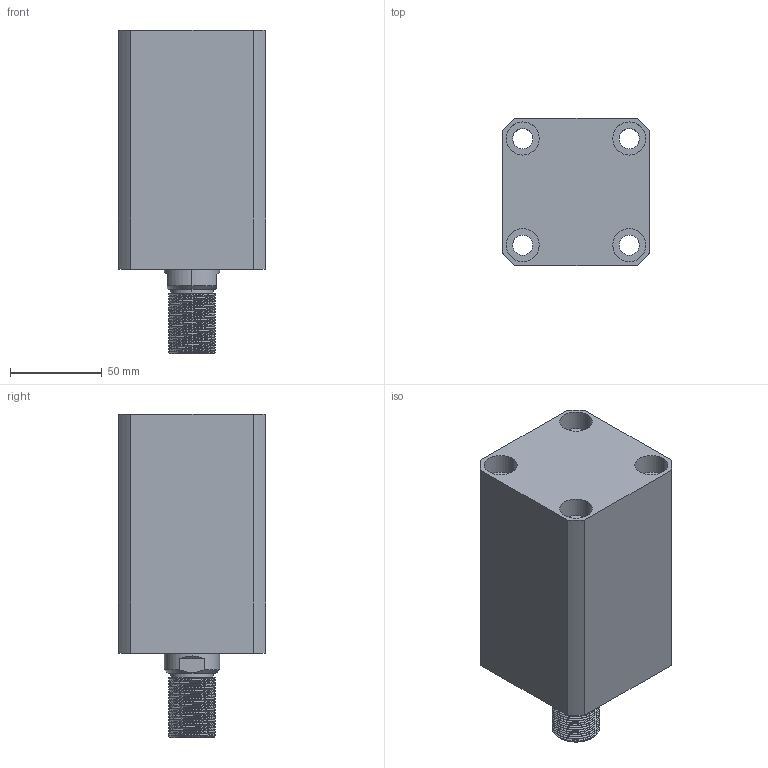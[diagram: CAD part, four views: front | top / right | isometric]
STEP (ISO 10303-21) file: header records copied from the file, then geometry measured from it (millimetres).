
FILE_DESCRIPTION (( 'STEP AP203' ), '1' );
FILE_NAME ('CHTB-SDMA50-70W.STEP', '2018-05-19T02:35:19', ( '' ), ( '' ), 'SwSTEP 2.0', 'SolidWorks 2015', '' );
FILE_SCHEMA (( 'CONFIG_CONTROL_DESIGN' ));
Length unit declared in the file: millimetre
Products named in the file (5): CHTB-SDMA50-70W; 活塞杆SDMA50-70W; M6; CHTM-SDMA50QG; 掛极SDMA50-70W
Assembly tree (5 placements, depth 2):
  CHTB-SDMA50-70W
    掛极SDMA50-70W
    活塞杆SDMA50-70W
    CHTM-SDMA50QG
    M6  x2
Bounding box: 80 x 80 x 176 mm (x, y, z)
Volume: 688462.7 mm3; surface area: 131364.9 mm2
Topology: 5 solids, 5 shells, 312 faces, 831 edges, 553 vertices
Faces by surface type: cylinder 179, plane 60, cone 29, bspline 28, torus 16
Entity records: 17949 total; most frequent: CARTESIAN_POINT 11067, ORIENTED_EDGE 1468, DIRECTION 1169, EDGE_CURVE 734, VERTEX_POINT 492, AXIS2_PLACEMENT_3D 472, EDGE_LOOP 320, FACE_OUTER_BOUND 277
